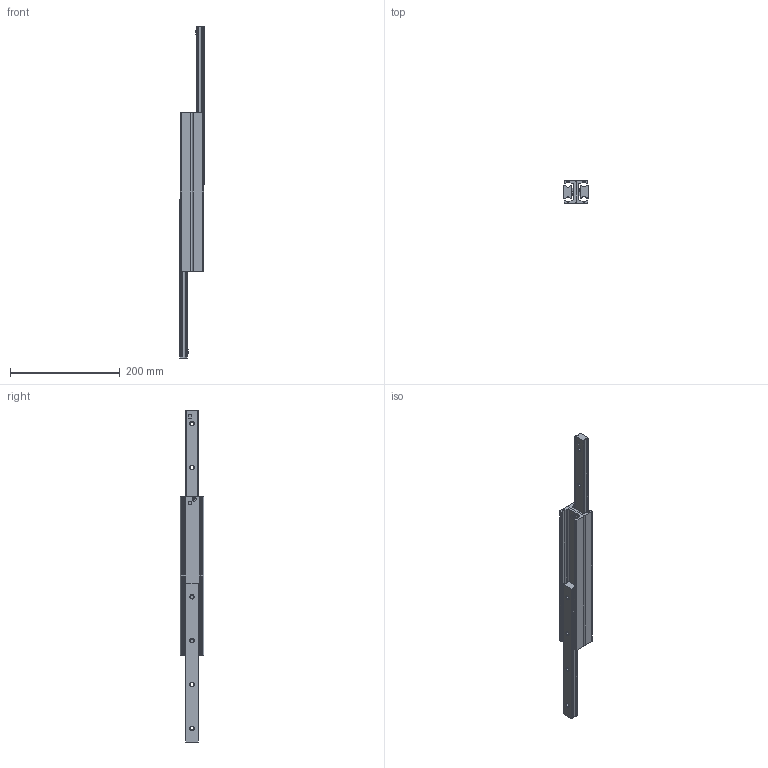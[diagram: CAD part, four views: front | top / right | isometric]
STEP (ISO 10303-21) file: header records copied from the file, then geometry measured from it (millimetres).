
FILE_DESCRIPTION( ( 'STEP AP214' ), '1' );
FILE_NAME( 'p:/temp/worker_90/temp/exporttempdir_3096_1647_QhePu/format_0/DEF43-290316.stp', '2020-03-20T19:51:23', ( 'License CC BY-ND 4.0' ), ( 'CADENAS' ), ' ', 'PARTsolutions', ' ' );
FILE_SCHEMA( ( 'AUTOMOTIVE_DESIGN { 1 0 10303 214 1 1 1 1 }' ) );
Length unit declared in the file: millimetre
Products named in the file (4): DEF43-290316; _432129031612-gf; _43212903161-ei; _432129031611-gf
Assembly tree (4 placements, depth 2):
  DEF43-290316
    _432129031612-gf
    _43212903161-ei  x2
    _432129031611-gf
Bounding box: 44 x 43 x 606 mm (x, y, z)
Volume: 358850.9 mm3; surface area: 139171 mm2
Topology: 4 solids, 4 shells, 176 faces, 448 edges, 292 vertices
Faces by surface type: plane 102, cylinder 54, cone 20
Full cylindrical faces by diameter (mm): 4.134 x2, 6.647 x8, 7 x2
Entity records: 4828 total; most frequent: DIRECTION 660, CARTESIAN_POINT 637, ORIENTED_EDGE 590, EDGE_CURVE 295, AXIS2_PLACEMENT_3D 232, VERTEX_POINT 209, LINE 196, VECTOR 196
